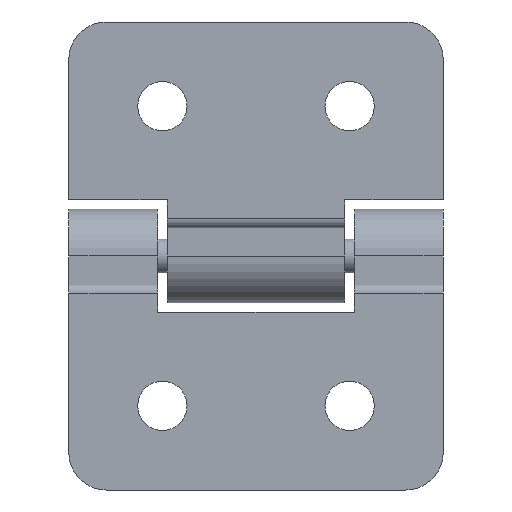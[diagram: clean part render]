
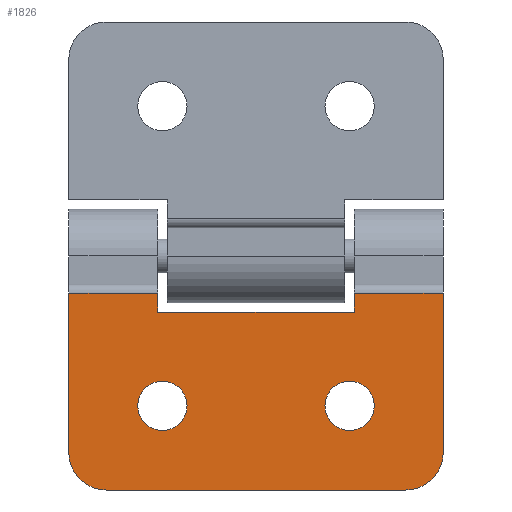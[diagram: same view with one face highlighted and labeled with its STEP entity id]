
A CAD part, front view. The second image highlights one B-rep face of the part: STEP entity #1826.
In plain terms, the highlighted planar face has unit normal (0, -1, 0).
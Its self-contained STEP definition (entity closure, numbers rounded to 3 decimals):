
#38 = CARTESIAN_POINT ( 'NONE',  ( 10., -3., -12.5 ) ) ;
#54 = VERTEX_POINT ( 'NONE', #1062 ) ;
#95 = ORIENTED_EDGE ( 'NONE', *, *, #852, .T. ) ;
#105 = CARTESIAN_POINT ( 'NONE',  ( 5., -3., -9.317 ) ) ;
#110 = EDGE_CURVE ( 'NONE', #1093, #1297, #296, .T. ) ;
#122 = VECTOR ( 'NONE', #400, 1000. ) ;
#155 = VECTOR ( 'NONE', #1007, 1000. ) ;
#168 = EDGE_CURVE ( 'NONE', #1443, #1791, #182, .T. ) ;
#178 = LINE ( 'NONE', #2200, #446 ) ;
#180 = LINE ( 'NONE', #878, #887 ) ;
#182 = LINE ( 'NONE', #2238, #993 ) ;
#200 = VERTEX_POINT ( 'NONE', #693 ) ;
#237 = ORIENTED_EDGE ( 'NONE', *, *, #110, .T. ) ;
#252 = VERTEX_POINT ( 'NONE', #1487 ) ;
#253 = CARTESIAN_POINT ( 'NONE',  ( 5.25, -3., -2. ) ) ;
#289 = CARTESIAN_POINT ( 'NONE',  ( 5., -3., -8. ) ) ;
#292 = EDGE_CURVE ( 'NONE', #252, #2179, #739, .T. ) ;
#296 = CIRCLE ( 'NONE', #2216, 1.317 ) ;
#331 = EDGE_CURVE ( 'NONE', #2149, #1443, #406, .T. ) ;
#355 = CARTESIAN_POINT ( 'NONE',  ( -10., -3., -2. ) ) ;
#381 = ORIENTED_EDGE ( 'NONE', *, *, #1188, .T. ) ;
#397 = VERTEX_POINT ( 'NONE', #470 ) ;
#400 = DIRECTION ( 'NONE',  ( 0., 0., 1. ) ) ;
#401 = EDGE_CURVE ( 'NONE', #1344, #200, #1717, .T. ) ;
#406 = LINE ( 'NONE', #1962, #2220 ) ;
#408 = ORIENTED_EDGE ( 'NONE', *, *, #331, .T. ) ;
#424 = PLANE ( 'NONE',  #2019 ) ;
#446 = VECTOR ( 'NONE', #2034, 1000. ) ;
#450 = EDGE_LOOP ( 'NONE', ( #381, #408, #970, #1334, #1742, #1089, #537, #1251, #1945, #2146 ) ) ;
#470 = CARTESIAN_POINT ( 'NONE',  ( 8., -3., -12.5 ) ) ;
#472 = DIRECTION ( 'NONE',  ( 0., 0., 1. ) ) ;
#491 = CARTESIAN_POINT ( 'NONE',  ( 5., -3., -6.683 ) ) ;
#509 = EDGE_CURVE ( 'NONE', #54, #529, #178, .T. ) ;
#523 = CARTESIAN_POINT ( 'NONE',  ( -5.25, -3., -2. ) ) ;
#529 = VERTEX_POINT ( 'NONE', #1753 ) ;
#537 = ORIENTED_EDGE ( 'NONE', *, *, #401, .F. ) ;
#645 = ORIENTED_EDGE ( 'NONE', *, *, #715, .T. ) ;
#648 = CARTESIAN_POINT ( 'NONE',  ( 10., -3., -1.5 ) ) ;
#657 = EDGE_CURVE ( 'NONE', #397, #1001, #1600, .T. ) ;
#693 = CARTESIAN_POINT ( 'NONE',  ( 10., -3., -10.5 ) ) ;
#699 = AXIS2_PLACEMENT_3D ( 'NONE', #1790, #1498, #1782 ) ;
#715 = EDGE_CURVE ( 'NONE', #2179, #252, #2079, .T. ) ;
#729 = DIRECTION ( 'NONE',  ( -1., 0., 0. ) ) ;
#739 = CIRCLE ( 'NONE', #699, 1.317 ) ;
#760 = FACE_BOUND ( 'NONE', #1066, .T. ) ;
#775 = DIRECTION ( 'NONE',  ( 0., 0., 1. ) ) ;
#793 = DIRECTION ( 'NONE',  ( 0., 0., 1. ) ) ;
#815 = CIRCLE ( 'NONE', #2082, 2. ) ;
#835 = CARTESIAN_POINT ( 'NONE',  ( 10., -3., -2. ) ) ;
#852 = EDGE_CURVE ( 'NONE', #1297, #1093, #1948, .T. ) ;
#856 = CARTESIAN_POINT ( 'NONE',  ( -8., -3., -10.5 ) ) ;
#878 = CARTESIAN_POINT ( 'NONE',  ( 5.25, -3., -3. ) ) ;
#887 = VECTOR ( 'NONE', #1816, 1000. ) ;
#915 = DIRECTION ( 'NONE',  ( -1., 0., 0. ) ) ;
#970 = ORIENTED_EDGE ( 'NONE', *, *, #168, .T. ) ;
#993 = VECTOR ( 'NONE', #1938, 1000. ) ;
#1001 = VERTEX_POINT ( 'NONE', #1786 ) ;
#1007 = DIRECTION ( 'NONE',  ( -1., 0., 0. ) ) ;
#1062 = CARTESIAN_POINT ( 'NONE',  ( 5.25, -3., -3. ) ) ;
#1066 = EDGE_LOOP ( 'NONE', ( #645, #1639 ) ) ;
#1089 = ORIENTED_EDGE ( 'NONE', *, *, #1172, .T. ) ;
#1093 = VERTEX_POINT ( 'NONE', #105 ) ;
#1098 = DIRECTION ( 'NONE',  ( 0., 0., 1. ) ) ;
#1114 = FACE_OUTER_BOUND ( 'NONE', #450, .T. ) ;
#1123 = CARTESIAN_POINT ( 'NONE',  ( 10., -3., -1.5 ) ) ;
#1160 = CARTESIAN_POINT ( 'NONE',  ( -5., -3., -8. ) ) ;
#1172 = EDGE_CURVE ( 'NONE', #397, #200, #815, .T. ) ;
#1188 = EDGE_CURVE ( 'NONE', #529, #2149, #2142, .T. ) ;
#1190 = LINE ( 'NONE', #1689, #155 ) ;
#1195 = DIRECTION ( 'NONE',  ( 0., 1., 0. ) ) ;
#1201 = DIRECTION ( 'NONE',  ( 0., 0., 1. ) ) ;
#1210 = VECTOR ( 'NONE', #2219, 1000. ) ;
#1212 = VERTEX_POINT ( 'NONE', #253 ) ;
#1251 = ORIENTED_EDGE ( 'NONE', *, *, #1865, .T. ) ;
#1297 = VERTEX_POINT ( 'NONE', #491 ) ;
#1302 = FACE_BOUND ( 'NONE', #2047, .T. ) ;
#1334 = ORIENTED_EDGE ( 'NONE', *, *, #2008, .T. ) ;
#1344 = VERTEX_POINT ( 'NONE', #835 ) ;
#1402 = CARTESIAN_POINT ( 'NONE',  ( 5., -3., -8. ) ) ;
#1443 = VERTEX_POINT ( 'NONE', #355 ) ;
#1487 = CARTESIAN_POINT ( 'NONE',  ( -5., -3., -9.317 ) ) ;
#1493 = CARTESIAN_POINT ( 'NONE',  ( 8., -3., -10.5 ) ) ;
#1498 = DIRECTION ( 'NONE',  ( 0., 1., 0. ) ) ;
#1524 = DIRECTION ( 'NONE',  ( 0., 0., 1. ) ) ;
#1543 = AXIS2_PLACEMENT_3D ( 'NONE', #1160, #2025, #775 ) ;
#1555 = DIRECTION ( 'NONE',  ( 0., -1., 0. ) ) ;
#1600 = LINE ( 'NONE', #38, #2117 ) ;
#1601 = DIRECTION ( 'NONE',  ( 0., 1., 0. ) ) ;
#1639 = ORIENTED_EDGE ( 'NONE', *, *, #292, .T. ) ;
#1683 = AXIS2_PLACEMENT_3D ( 'NONE', #856, #1555, #472 ) ;
#1689 = CARTESIAN_POINT ( 'NONE',  ( 10., -3., -2. ) ) ;
#1717 = LINE ( 'NONE', #648, #1210 ) ;
#1742 = ORIENTED_EDGE ( 'NONE', *, *, #657, .F. ) ;
#1753 = CARTESIAN_POINT ( 'NONE',  ( -5.25, -3., -3. ) ) ;
#1782 = DIRECTION ( 'NONE',  ( 0., 0., 1. ) ) ;
#1786 = CARTESIAN_POINT ( 'NONE',  ( -8., -3., -12.5 ) ) ;
#1790 = CARTESIAN_POINT ( 'NONE',  ( -5., -3., -8. ) ) ;
#1791 = VERTEX_POINT ( 'NONE', #1964 ) ;
#1812 = DIRECTION ( 'NONE',  ( 0., -1., 0. ) ) ;
#1816 = DIRECTION ( 'NONE',  ( 0., 0., 1. ) ) ;
#1819 = DIRECTION ( 'NONE',  ( 0., 1., 0. ) ) ;
#1826 = ADVANCED_FACE ( 'NONE', ( #760, #1302, #1114 ), #424, .F. ) ;
#1865 = EDGE_CURVE ( 'NONE', #1344, #1212, #1190, .T. ) ;
#1905 = AXIS2_PLACEMENT_3D ( 'NONE', #289, #1195, #1524 ) ;
#1926 = CARTESIAN_POINT ( 'NONE',  ( -5., -3., -6.683 ) ) ;
#1938 = DIRECTION ( 'NONE',  ( 0., 0., -1. ) ) ;
#1945 = ORIENTED_EDGE ( 'NONE', *, *, #2102, .F. ) ;
#1948 = CIRCLE ( 'NONE', #1905, 1.317 ) ;
#1962 = CARTESIAN_POINT ( 'NONE',  ( 10., -3., -2. ) ) ;
#1964 = CARTESIAN_POINT ( 'NONE',  ( -10., -3., -10.5 ) ) ;
#1967 = CARTESIAN_POINT ( 'NONE',  ( -5.25, -3., -3. ) ) ;
#2008 = EDGE_CURVE ( 'NONE', #1791, #1001, #2185, .T. ) ;
#2019 = AXIS2_PLACEMENT_3D ( 'NONE', #1123, #1819, #1098 ) ;
#2025 = DIRECTION ( 'NONE',  ( 0., 1., 0. ) ) ;
#2034 = DIRECTION ( 'NONE',  ( -1., 0., 0. ) ) ;
#2047 = EDGE_LOOP ( 'NONE', ( #95, #237 ) ) ;
#2079 = CIRCLE ( 'NONE', #1543, 1.317 ) ;
#2082 = AXIS2_PLACEMENT_3D ( 'NONE', #1493, #1812, #793 ) ;
#2102 = EDGE_CURVE ( 'NONE', #54, #1212, #180, .T. ) ;
#2117 = VECTOR ( 'NONE', #729, 1000. ) ;
#2142 = LINE ( 'NONE', #1967, #122 ) ;
#2146 = ORIENTED_EDGE ( 'NONE', *, *, #509, .T. ) ;
#2149 = VERTEX_POINT ( 'NONE', #523 ) ;
#2179 = VERTEX_POINT ( 'NONE', #1926 ) ;
#2185 = CIRCLE ( 'NONE', #1683, 2. ) ;
#2200 = CARTESIAN_POINT ( 'NONE',  ( 5.25, -3., -3. ) ) ;
#2216 = AXIS2_PLACEMENT_3D ( 'NONE', #1402, #1601, #1201 ) ;
#2219 = DIRECTION ( 'NONE',  ( 0., 0., -1. ) ) ;
#2220 = VECTOR ( 'NONE', #915, 1000. ) ;
#2238 = CARTESIAN_POINT ( 'NONE',  ( -10., -3., -1.5 ) ) ;
